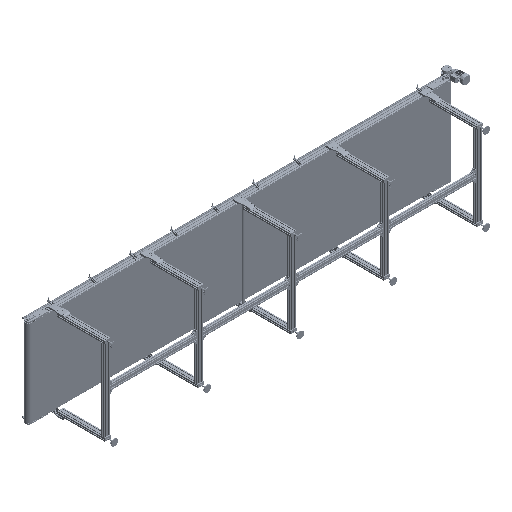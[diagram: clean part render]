
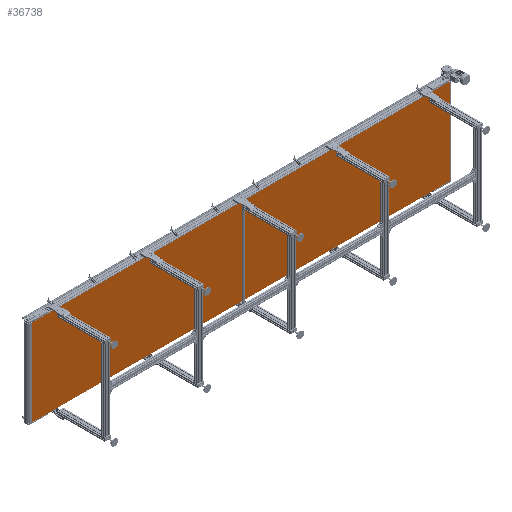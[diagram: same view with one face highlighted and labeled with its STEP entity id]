
A CAD part, isometric view. The second image highlights one B-rep face of the part: STEP entity #36738.
In plain terms, the highlighted planar face has unit normal (0, -1, 0).
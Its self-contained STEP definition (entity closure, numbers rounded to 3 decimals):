
#13110 = PLANE ( 'NONE',  #77641 ) ;
#15780 = LINE ( 'NONE', #194724, #251429 ) ;
#18848 = DIRECTION ( 'NONE',  ( 0., 0., -1. ) ) ;
#34488 = CARTESIAN_POINT ( 'NONE',  ( -3150., -49.5, 650. ) ) ;
#36738 = ADVANCED_FACE ( 'NONE', ( #223131 ), #13110, .F. ) ;
#36878 = EDGE_CURVE ( 'NONE', #291549, #205018, #351442, .T. ) ;
#38313 = DIRECTION ( 'NONE',  ( 1., 0., 0. ) ) ;
#48395 = VERTEX_POINT ( 'NONE', #327691 ) ;
#55890 = VERTEX_POINT ( 'NONE', #336862 ) ;
#77641 = AXIS2_PLACEMENT_3D ( 'NONE', #102571, #217399, #219319 ) ;
#93862 = EDGE_CURVE ( 'NONE', #48395, #205018, #15780, .T. ) ;
#102571 = CARTESIAN_POINT ( 'NONE',  ( -3150., -49.5, 650. ) ) ;
#127796 = LINE ( 'NONE', #34488, #225611 ) ;
#131467 = ORIENTED_EDGE ( 'NONE', *, *, #186515, .T. ) ;
#144825 = ORIENTED_EDGE ( 'NONE', *, *, #93862, .T. ) ;
#145154 = CARTESIAN_POINT ( 'NONE',  ( 3150., -49.5, 650. ) ) ;
#164614 = VECTOR ( 'NONE', #18848, 1000. ) ;
#170665 = LINE ( 'NONE', #176434, #306771 ) ;
#176434 = CARTESIAN_POINT ( 'NONE',  ( -3150., -49.5, 650. ) ) ;
#186515 = EDGE_CURVE ( 'NONE', #55890, #48395, #170665, .T. ) ;
#194724 = CARTESIAN_POINT ( 'NONE',  ( -3150., -49.5, -650. ) ) ;
#205018 = VERTEX_POINT ( 'NONE', #269996 ) ;
#217399 = DIRECTION ( 'NONE',  ( 0., 1., 0. ) ) ;
#219319 = DIRECTION ( 'NONE',  ( 0., 0., 1. ) ) ;
#223131 = FACE_OUTER_BOUND ( 'NONE', #377385, .T. ) ;
#225611 = VECTOR ( 'NONE', #38313, 1000. ) ;
#228832 = ORIENTED_EDGE ( 'NONE', *, *, #36878, .F. ) ;
#251429 = VECTOR ( 'NONE', #317272, 1000. ) ;
#269996 = CARTESIAN_POINT ( 'NONE',  ( 3150., -49.5, -650. ) ) ;
#287469 = DIRECTION ( 'NONE',  ( 0., 0., -1. ) ) ;
#291549 = VERTEX_POINT ( 'NONE', #314346 ) ;
#306771 = VECTOR ( 'NONE', #287469, 1000. ) ;
#314346 = CARTESIAN_POINT ( 'NONE',  ( 3150., -49.5, 650. ) ) ;
#317272 = DIRECTION ( 'NONE',  ( 1., 0., 0. ) ) ;
#317791 = ORIENTED_EDGE ( 'NONE', *, *, #340582, .F. ) ;
#327691 = CARTESIAN_POINT ( 'NONE',  ( -3150., -49.5, -650. ) ) ;
#336862 = CARTESIAN_POINT ( 'NONE',  ( -3150., -49.5, 650. ) ) ;
#340582 = EDGE_CURVE ( 'NONE', #55890, #291549, #127796, .T. ) ;
#351442 = LINE ( 'NONE', #145154, #164614 ) ;
#377385 = EDGE_LOOP ( 'NONE', ( #144825, #228832, #317791, #131467 ) ) ;
